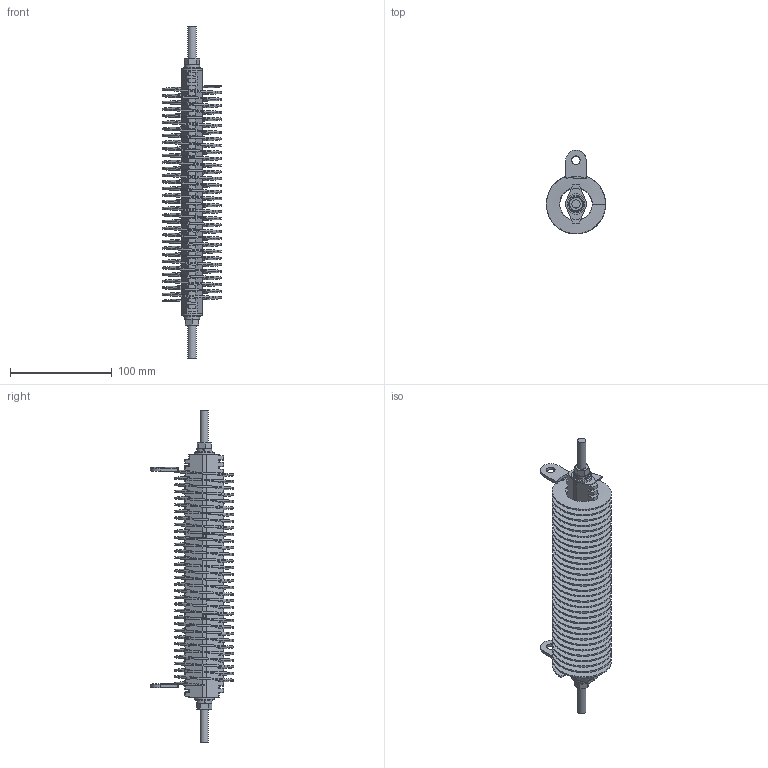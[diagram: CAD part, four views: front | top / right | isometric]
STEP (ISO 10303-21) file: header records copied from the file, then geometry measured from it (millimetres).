
FILE_DESCRIPTION(/* description */ (''),/* implementation_level */ '2;1');
FILE_NAME(/* name */ 'C:\_Vault\Dati\CATALOGO\RNT\RNT Catalogo\RNT 3.stp',/* time_stamp */ '2023-05-16T14:52:04+02:00',/* author */ ('claudio'),/* organization */ ('Fairfild Srl'),/* preprocessor_version */ 'ST-DEVELOPER v18.1',/* originating_system */ 'Autodesk Inventor 2022',/* authorisation */ '');
FILE_SCHEMA (('AUTOMOTIVE_DESIGN { 1 0 10303 214 3 1 1 }'));
Length unit declared in the file: millimetre
Products named in the file (10): RNT 3; 06M008000FZ7500000; 141000G0112M7001CH; RANELLA  ISOL. UNI SF 1630 201x10x0,50; 141000G0112M700001; 58008100208M500200; 600008000FZ9200030; 600008000FZ5100032; 28M008000FZ8800000; RNT 3_1
Assembly tree (15 placements, depth 2):
  RNT 3
    06M008000FZ7500000
    141000G0112M7001CH  x2
    58008100208M500200  x2
    600008000FZ9200030  x2
    600008000FZ5100032  x2
    28M008000FZ8800000  x2
    RANELLA  ISOL. UNI SF 1630 201x10x0,50  x2
    141000G0112M700001
    RNT 3_1
Bounding box: 58 x 82 x 326 mm (x, y, z)
Volume: 213861.2 mm3; surface area: 184173.6 mm2
Topology: 15 solids, 15 shells, 542 faces, 1535 edges, 1014 vertices
Faces by surface type: cylinder 254, bspline 155, plane 105, cone 28
Full cylindrical faces by diameter (mm): 6.647 x2, 8 x1, 8.4 x2, 8.5 x4, 9 x3, 10 x2, 17 x2, 20 x2, 32 x32, 58 x32
Entity records: 20969 total; most frequent: CARTESIAN_POINT 11900, ORIENTED_EDGE 2170, DIRECTION 1179, EDGE_CURVE 1085, VERTEX_POINT 720, B_SPLINE_CURVE_WITH_KNOTS 559, LINE 413, VECTOR 413
